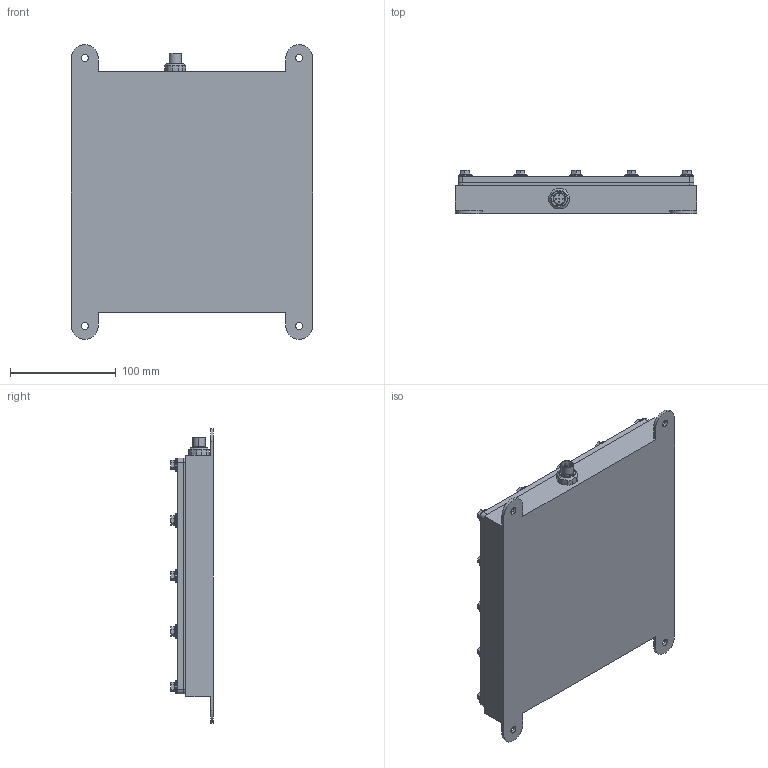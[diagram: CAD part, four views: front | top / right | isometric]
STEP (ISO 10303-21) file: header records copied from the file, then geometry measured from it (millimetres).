
FILE_DESCRIPTION (( 'STEP AP214' ), '1' );
FILE_NAME ('SOBLW-190x190-XXX.STEP', '2023-02-01T20:33:58', ( '' ), ( '' ), 'SwSTEP 2.0', 'SolidWorks 2023', '' );
FILE_SCHEMA (( 'AUTOMOTIVE_DESIGN' ));
Length unit declared in the file: millimetre
Products named in the file (8): SOBLW-190x190-XXX; LA-GK017 (LA-BJ BODY GASKET).STEP_Part4; LA-VP025 (LA-BK).STEP_Part3; 5mmclinch1_94100A140.STEP_Part2; LA-BODY021 (DLPW-NC-190x190 (LA-BK).STEP_Part7; SM5+8 BSW.STEP_Part1; PLUG (CIRCUIT BOARD).STEP_Part6; SM5x16 8H.STEP_Part5
Assembly tree (52 placements, depth 2):
  SOBLW-190x190-XXX
    LA-BODY021 (DLPW-NC-190x190 (LA-BK).STEP_Part7
    5mmclinch1_94100A140.STEP_Part2  x16
    LA-GK017 (LA-BJ BODY GASKET).STEP_Part4
    LA-VP025 (LA-BK).STEP_Part3
    SM5+8 BSW.STEP_Part1  x16
    PLUG (CIRCUIT BOARD).STEP_Part6
    SM5x16 8H.STEP_Part5  x16
Bounding box: 228.6 x 40.45 x 279.4 mm (x, y, z)
Volume: 529622.5 mm3; surface area: 330416.2 mm2
Topology: 68 solids, 68 shells, 1007 faces, 2237 edges, 1431 vertices
Faces by surface type: cylinder 448, plane 345, cone 214
Entity records: 10132 total; most frequent: DIRECTION 1868, CARTESIAN_POINT 1667, ORIENTED_EDGE 1534, EDGE_CURVE 767, AXIS2_PLACEMENT_3D 750, VERTEX_POINT 501, EDGE_LOOP 434, CIRCLE 393
